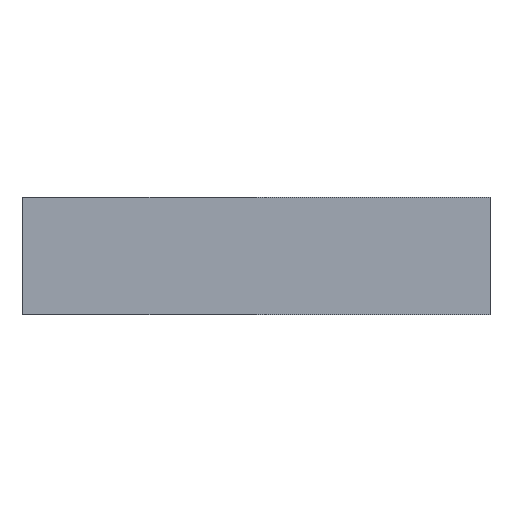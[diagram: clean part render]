
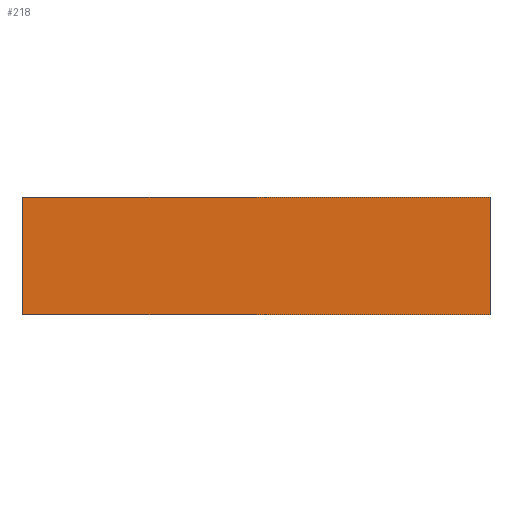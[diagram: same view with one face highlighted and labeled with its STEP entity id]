
A CAD part, front view. The second image highlights one B-rep face of the part: STEP entity #218.
In plain terms, the highlighted planar face has unit normal (0, -1, 0).
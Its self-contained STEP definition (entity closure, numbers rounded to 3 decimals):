
#6 = CARTESIAN_POINT ( 'NONE',  ( -21.983, 0., -17.155 ) ) ;
#7 = CARTESIAN_POINT ( 'NONE',  ( -41.983, 0., -12.155 ) ) ;
#8 = PLANE ( 'NONE',  #55 ) ;
#10 = VERTEX_POINT ( 'NONE', #7 ) ;
#27 = DIRECTION ( 'NONE',  ( 1., 0., 0. ) ) ;
#33 = CARTESIAN_POINT ( 'NONE',  ( -41.983, 0., -17.155 ) ) ;
#35 = VECTOR ( 'NONE', #64, 1000. ) ;
#36 = EDGE_CURVE ( 'NONE', #10, #97, #212, .T. ) ;
#42 = ORIENTED_EDGE ( 'NONE', *, *, #36, .F. ) ;
#49 = FACE_OUTER_BOUND ( 'NONE', #207, .T. ) ;
#55 = AXIS2_PLACEMENT_3D ( 'NONE', #152, #69, #155 ) ;
#64 = DIRECTION ( 'NONE',  ( 0., 0., 1. ) ) ;
#65 = CARTESIAN_POINT ( 'NONE',  ( -41.983, 0., -12.155 ) ) ;
#69 = DIRECTION ( 'NONE',  ( 0., 1., 0. ) ) ;
#74 = CARTESIAN_POINT ( 'NONE',  ( -21.983, 0., -17.155 ) ) ;
#92 = EDGE_CURVE ( 'NONE', #97, #222, #126, .T. ) ;
#93 = LINE ( 'NONE', #235, #172 ) ;
#97 = VERTEX_POINT ( 'NONE', #144 ) ;
#113 = VECTOR ( 'NONE', #203, 1000. ) ;
#116 = EDGE_CURVE ( 'NONE', #222, #149, #93, .T. ) ;
#126 = LINE ( 'NONE', #74, #113 ) ;
#132 = VECTOR ( 'NONE', #27, 1000. ) ;
#144 = CARTESIAN_POINT ( 'NONE',  ( -21.983, 0., -12.155 ) ) ;
#149 = VERTEX_POINT ( 'NONE', #182 ) ;
#152 = CARTESIAN_POINT ( 'NONE',  ( 0., 0., 0. ) ) ;
#155 = DIRECTION ( 'NONE',  ( 0., 0., 1. ) ) ;
#171 = EDGE_CURVE ( 'NONE', #149, #10, #211, .T. ) ;
#172 = VECTOR ( 'NONE', #219, 1000. ) ;
#182 = CARTESIAN_POINT ( 'NONE',  ( -41.983, 0., -17.155 ) ) ;
#187 = ORIENTED_EDGE ( 'NONE', *, *, #116, .F. ) ;
#188 = ORIENTED_EDGE ( 'NONE', *, *, #171, .F. ) ;
#203 = DIRECTION ( 'NONE',  ( 0., 0., -1. ) ) ;
#205 = ORIENTED_EDGE ( 'NONE', *, *, #92, .F. ) ;
#207 = EDGE_LOOP ( 'NONE', ( #188, #187, #205, #42 ) ) ;
#211 = LINE ( 'NONE', #33, #35 ) ;
#212 = LINE ( 'NONE', #65, #132 ) ;
#218 = ADVANCED_FACE ( 'NONE', ( #49 ), #8, .F. ) ;
#219 = DIRECTION ( 'NONE',  ( -1., 0., 0. ) ) ;
#222 = VERTEX_POINT ( 'NONE', #6 ) ;
#235 = CARTESIAN_POINT ( 'NONE',  ( -41.983, 0., -17.155 ) ) ;
